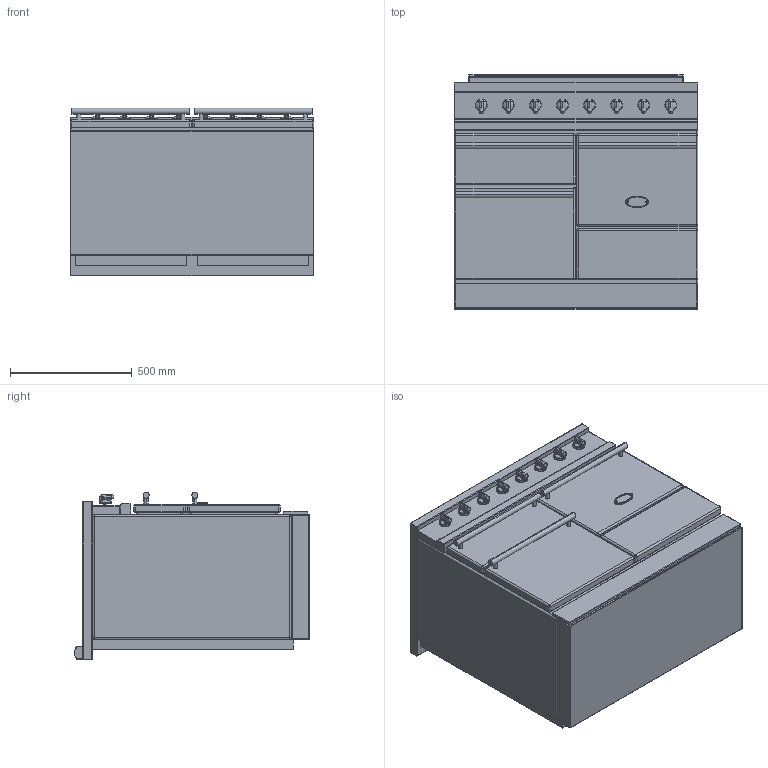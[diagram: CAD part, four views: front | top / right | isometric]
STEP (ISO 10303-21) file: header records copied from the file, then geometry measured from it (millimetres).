
FILE_DESCRIPTION((''),'2;1');
FILE_NAME('LMVI1053_ASM','2022-04-13T11:19:39',('stagiaire'),(''),'CREO PARAMETRIC BY PTC INC, 2021424','CREO PARAMETRIC BY PTC INC, 2021424','');
FILE_SCHEMA(('AP203_CONFIGURATION_CONTROLLED_3D_DESIGN_OF_MECHANICAL_PARTS_AND_ASSEMBLIES_MIM_LF { 1 0 10303 403 2 1 2 }'));
Products named in the file (12): BASE_EXPORT_CHAGNY_MODERN; 65064012; 19150009; 88064012_ASM; 65049009; 65650001; BASE_EXPORT_CHAGNY_MODERN_ASM; TABLE_1000_INDUCTION; 65052013; CHEMINEE_2020_LG882_EXPORT_STEP; TABLE_1000_INDUCTION_ASM; LMVI1053_ASM
Assembly tree (18 placements, depth 4):
  LMVI1053_ASM
    BASE_EXPORT_CHAGNY_MODERN_ASM
      BASE_EXPORT_CHAGNY_MODERN
      88064012_ASM  x8
        65064012
        19150009
      65049009
      65650001
    TABLE_1000_INDUCTION_ASM
      TABLE_1000_INDUCTION
      65052013
      CHEMINEE_2020_LG882_EXPORT_STEP
Bounding box: 1000 x 963 x 687.75 mm (x, y, z)
Volume: 542080794.7 mm3; surface area: 8928828.4 mm2
Topology: 25 solids, 25 shells, 3153 faces, 8982 edges, 5716 vertices
Faces by surface type: plane 1367, cylinder 1144, sphere 274, bspline 254, torus 74, cone 38, extrusion 2
Entity records: 90737 total; most frequent: CARTESIAN_POINT 22127, ORIENTED_EDGE 12402, DIRECTION 11930, EDGE_CURVE 6201, VECTOR 4755, LINE 4753, VERTEX_POINT 4015, AXIS2_PLACEMENT_3D 3571
